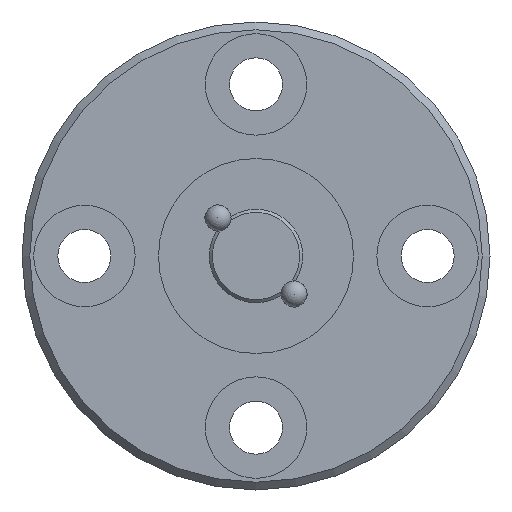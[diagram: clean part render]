
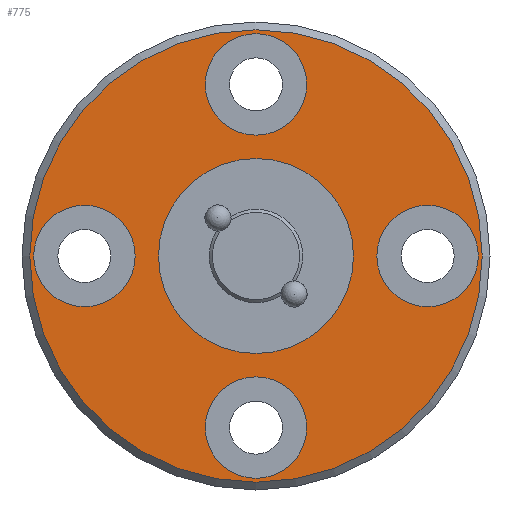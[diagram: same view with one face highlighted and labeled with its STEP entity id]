
A CAD part, left-side view. The second image highlights one B-rep face of the part: STEP entity #775.
In plain terms, the highlighted planar face has unit normal (-1, 0, 0).
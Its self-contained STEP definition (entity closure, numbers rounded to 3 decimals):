
#40=PLANE('',#859);
#135=ORIENTED_EDGE('',*,*,#323,.T.);
#136=ORIENTED_EDGE('',*,*,#324,.T.);
#137=ORIENTED_EDGE('',*,*,#325,.T.);
#138=ORIENTED_EDGE('',*,*,#326,.T.);
#139=ORIENTED_EDGE('',*,*,#327,.T.);
#140=ORIENTED_EDGE('',*,*,#321,.T.);
#321=EDGE_CURVE('',#415,#415,#488,.T.);
#323=EDGE_CURVE('',#417,#417,#490,.T.);
#324=EDGE_CURVE('',#418,#418,#491,.T.);
#325=EDGE_CURVE('',#419,#419,#492,.T.);
#326=EDGE_CURVE('',#420,#420,#493,.T.);
#327=EDGE_CURVE('',#421,#421,#494,.T.);
#415=VERTEX_POINT('',#1241);
#417=VERTEX_POINT('',#1246);
#418=VERTEX_POINT('',#1248);
#419=VERTEX_POINT('',#1250);
#420=VERTEX_POINT('',#1252);
#421=VERTEX_POINT('',#1254);
#488=CIRCLE('',#857,14.5);
#490=CIRCLE('',#860,6.25);
#491=CIRCLE('',#861,3.25);
#492=CIRCLE('',#862,3.25);
#493=CIRCLE('',#863,3.25);
#494=CIRCLE('',#864,3.25);
#547=EDGE_LOOP('',(#135));
#548=EDGE_LOOP('',(#136));
#549=EDGE_LOOP('',(#137));
#550=EDGE_LOOP('',(#138));
#551=EDGE_LOOP('',(#139));
#552=EDGE_LOOP('',(#140));
#661=FACE_BOUND('',#547,.T.);
#662=FACE_BOUND('',#548,.T.);
#663=FACE_BOUND('',#549,.T.);
#664=FACE_BOUND('',#550,.T.);
#665=FACE_BOUND('',#551,.T.);
#666=FACE_BOUND('',#552,.T.);
#775=ADVANCED_FACE('',(#661,#662,#663,#664,#665,#666),#40,.F.);
#857=AXIS2_PLACEMENT_3D('',#1240,#980,#981);
#859=AXIS2_PLACEMENT_3D('',#1244,#984,#985);
#860=AXIS2_PLACEMENT_3D('',#1245,#986,#987);
#861=AXIS2_PLACEMENT_3D('',#1247,#988,#989);
#862=AXIS2_PLACEMENT_3D('',#1249,#990,#991);
#863=AXIS2_PLACEMENT_3D('',#1251,#992,#993);
#864=AXIS2_PLACEMENT_3D('',#1253,#994,#995);
#980=DIRECTION('',(-1.,0.,0.));
#981=DIRECTION('',(0.,0.,1.));
#984=DIRECTION('',(1.,0.,0.));
#985=DIRECTION('',(0.,0.,-1.));
#986=DIRECTION('',(1.,0.,0.));
#987=DIRECTION('',(0.,0.,-1.));
#988=DIRECTION('',(1.,0.,0.));
#989=DIRECTION('',(0.,-1.,0.));
#990=DIRECTION('',(1.,0.,0.));
#991=DIRECTION('',(0.,-1.,0.));
#992=DIRECTION('',(1.,0.,0.));
#993=DIRECTION('',(0.,0.,1.));
#994=DIRECTION('',(1.,0.,0.));
#995=DIRECTION('',(0.,0.,1.));
#1240=CARTESIAN_POINT('',(-12.5,0.,0.));
#1241=CARTESIAN_POINT('',(-12.5,0.,14.5));
#1244=CARTESIAN_POINT('',(-12.5,14.5,0.));
#1245=CARTESIAN_POINT('',(-12.5,0.,0.));
#1246=CARTESIAN_POINT('',(-12.5,0.,-6.25));
#1247=CARTESIAN_POINT('',(-12.5,0.,11.));
#1248=CARTESIAN_POINT('',(-12.5,-3.25,11.));
#1249=CARTESIAN_POINT('',(-12.5,0.,-11.));
#1250=CARTESIAN_POINT('',(-12.5,-3.25,-11.));
#1251=CARTESIAN_POINT('',(-12.5,-11.,0.));
#1252=CARTESIAN_POINT('',(-12.5,-11.,3.25));
#1253=CARTESIAN_POINT('',(-12.5,11.,0.));
#1254=CARTESIAN_POINT('',(-12.5,11.,3.25));
